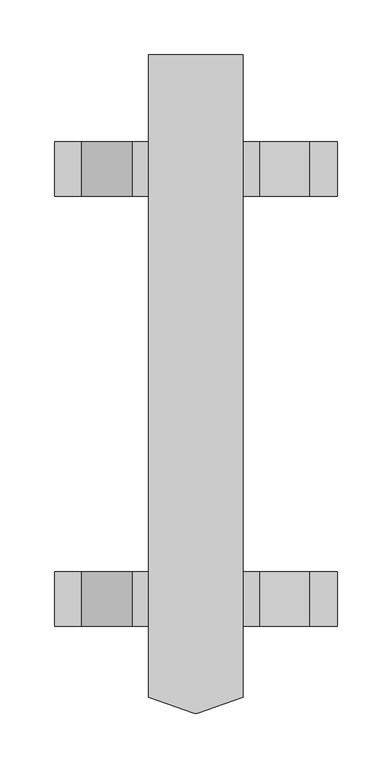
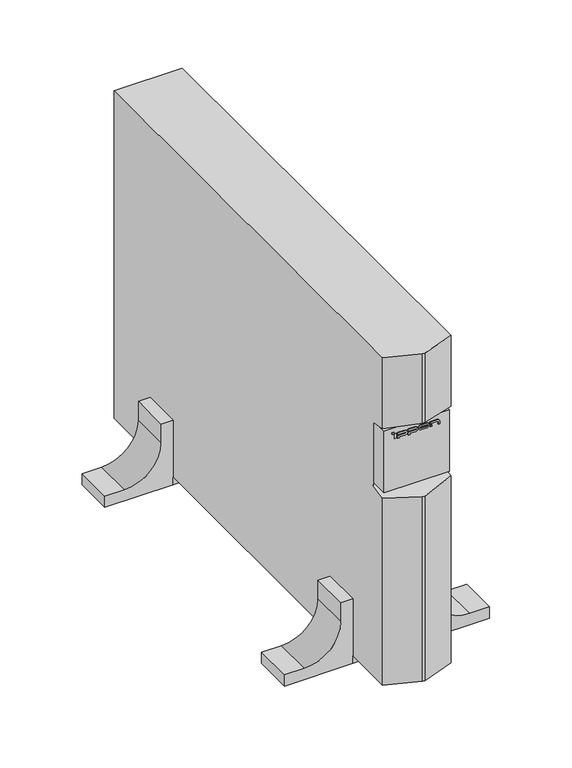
"""IFC4 building model written with IfcOpenShell, lengths in millimetres: proxy geometry, IPPON_ИБП_Innova RT_1000_1500_2000_3000ВА : INNOVA RT 3000 ВА."""

import ifcopenshell
import ifcopenshell.guid

model = None  # the IFC model being written
_history = None  # IfcOwnerHistory: only IFC2X3 demands one
_inside = {}  # id of a spatial element -> (the spatial element, [elements in it])
_under = {}  # id of a project, library or spatial element -> (it, [spatial elements below it])
_declared = {}  # id of a project -> (the project, [libraries it declares])
_typed = {}  # id of a type object -> (the type object, [elements of that type])
_made_of = {}  # id of a material, layer set ... -> (it, [elements and type objects made of it])


def new_model(schema):
    """Start an empty IFC model of exactly this schema.

    Asked for "IFC4X3", IfcOpenShell would pick the latest addendum, in which some entities
    have other attributes; the version numbers below select the first issue.
    IFC2X3 requires an IfcOwnerHistory on every rooted entity: one is made here for all.
    """
    global model, _history
    if schema == "IFC4X3":
        model = ifcopenshell.file(schema_version=(4, 3, 0, 0))
    else:
        model = ifcopenshell.file(schema=schema)
    _inside.clear()
    _under.clear()
    _declared.clear()
    _typed.clear()
    _made_of.clear()
    _history = None
    if model.schema == "IFC2X3":
        org = make("IfcOrganization", Name="unknown")
        user = make(
            "IfcPersonAndOrganization",
            ThePerson=make("IfcPerson", FamilyName="unknown"),
            TheOrganization=org,
        )
        app = make(
            "IfcApplication",
            ApplicationDeveloper=org,
            Version="unknown",
            ApplicationFullName="unknown",
            ApplicationIdentifier="unknown",
        )
        _history = make(
            "IfcOwnerHistory",
            OwningUser=user,
            OwningApplication=app,
            ChangeAction="ADDED",
            CreationDate=0,
        )
    return model


def make(cls, **values):
    """One entity of the class cls with the attributes given. An attribute that is None is left unset."""
    return model.create_entity(
        cls, **{name: value for name, value in values.items() if value is not None}
    )


def rooted(cls, **values):
    """An entity with a GlobalId (a new one), such as an element, a storey or a relation."""
    return make(cls, GlobalId=ifcopenshell.guid.new(), OwnerHistory=_history, **values)


def si_unit(unit_type, name, prefix=None):
    """IfcSIUnit, for example si_unit("LENGTHUNIT", "METRE", prefix="MILLI")."""
    return make("IfcSIUnit", UnitType=unit_type, Prefix=prefix, Name=name)


def assignment(units):
    """IfcUnitAssignment: the units of a project."""
    return None if units is None else make("IfcUnitAssignment", Units=units)


def point(xyz):
    """IfcCartesianPoint."""
    return None if xyz is None else make("IfcCartesianPoint", Coordinates=xyz)


def direction(xyz):
    """IfcDirection."""
    return None if xyz is None else make("IfcDirection", DirectionRatios=xyz)


def frame(location, z_axis=None, x_axis=None):
    """IfcAxis2Placement3D, a coordinate frame: its origin and axes. An axis left out is left unset."""
    return make(
        "IfcAxis2Placement3D",
        Location=point(location),
        Axis=direction(z_axis),
        RefDirection=direction(x_axis),
    )


def frame_2d(location, x_axis=None):
    """IfcAxis2Placement2D, a coordinate frame in the plane: its origin and x axis."""
    return make(
        "IfcAxis2Placement2D", Location=point(location), RefDirection=direction(x_axis)
    )


def origin():
    """The frame at (0, 0, 0) with its axes left unset."""
    return frame((0.0, 0.0, 0.0))


def origin_with_axes():
    """The frame at (0, 0, 0) with the z axis (0, 0, 1) and the x axis (1, 0, 0) written out."""
    return frame((0.0, 0.0, 0.0), z_axis=(0.0, 0.0, 1.0), x_axis=(1.0, 0.0, 0.0))


def place(relative_to, where):
    """IfcLocalPlacement: puts the frame where relative to a parent placement (None: the world)."""
    return make(
        "IfcLocalPlacement", PlacementRelTo=relative_to, RelativePlacement=where
    )


def context(
    kind, dimensions, precision=None, world=None, true_north=None, identifier=None
):
    """IfcGeometricRepresentationContext, for example the 3D "Model" context."""
    return make(
        "IfcGeometricRepresentationContext",
        ContextIdentifier=identifier,
        ContextType=kind,
        CoordinateSpaceDimension=dimensions,
        Precision=precision,
        WorldCoordinateSystem=world,
        TrueNorth=true_north,
    )


def project(units=None, contexts=None):
    """IfcProject with its units and contexts."""
    return rooted(
        "IfcProject",
        Name="project",
        RepresentationContexts=contexts,
        UnitsInContext=assignment(units),
    )


def spatial(cls, under=None, at=None, **own):
    """A site, building, storey or space (cls), placed at a placement, below another one or the project."""
    s = rooted(cls, ObjectPlacement=at, **own)
    if under is not None:
        _under.setdefault(under.id(), (under, []))[1].append(s)
    return s


def polyline(points):
    """IfcPolyline through the points."""
    return make("IfcPolyline", Points=[point(p) for p in points])


def circle_curve(where, radius):
    """IfcCircle in the frame where."""
    return make("IfcCircle", Position=where, Radius=radius)


def trimmed(basis, trim1, trim2, sense, master):
    """IfcTrimmedCurve: the piece of a basis curve between two trims."""
    return make(
        "IfcTrimmedCurve",
        BasisCurve=basis,
        Trim1=trim1,
        Trim2=trim2,
        SenseAgreement=sense,
        MasterRepresentation=master,
    )


def segment(curve, same_sense, transition):
    """IfcCompositeCurveSegment."""
    return make(
        "IfcCompositeCurveSegment",
        Transition=transition,
        SameSense=same_sense,
        ParentCurve=curve,
    )


def composite_curve(segments, self_intersect=None):
    """IfcCompositeCurve: segments joined end to end."""
    return make("IfcCompositeCurve", Segments=segments, SelfIntersect=self_intersect)


def outline(outer, holes=None, kind="AREA"):
    """IfcArbitraryClosedProfileDef: a profile drawn as a closed curve; with holes, ...WithVoids."""
    if holes is None:
        return make("IfcArbitraryClosedProfileDef", ProfileType=kind, OuterCurve=outer)
    return make(
        "IfcArbitraryProfileDefWithVoids",
        ProfileType=kind,
        OuterCurve=outer,
        InnerCurves=holes,
    )


def extrude(swept, where, along, depth):
    """IfcExtrudedAreaSolid: the profile swept, set in the frame where, extruded along a direction by depth."""
    return make(
        "IfcExtrudedAreaSolid",
        SweptArea=swept,
        Position=where,
        ExtrudedDirection=direction(along),
        Depth=depth,
    )


def faces_of(points, faces, orient=None, outer=None):
    """IfcFace entities. A face is a list of loops; a loop is a list of indices into points, from 0.

    orient and outer hold one flag for each loop. By default every Orientation is true, the
    first loop of a face is its IfcFaceOuterBound and the others are IfcFaceBound.
    """
    made = []
    for i, loops in enumerate(faces):
        bounds = []
        for j, loop in enumerate(loops):
            is_outer = j == 0 if outer is None else outer[i][j]
            bounds.append(
                make(
                    "IfcFaceOuterBound" if is_outer else "IfcFaceBound",
                    Bound=make("IfcPolyLoop", Polygon=[points[k] for k in loop]),
                    Orientation=True if orient is None else orient[i][j],
                )
            )
        made.append(make("IfcFace", Bounds=bounds))
    return made


def faceted_brep(points, faces, orient=None, outer=None, voids=None):
    """IfcFacetedBrep: a solid bounded by flat faces; with voids (closed shells), ...WithVoids."""
    shared = [point(p) for p in points]
    hull = make("IfcClosedShell", CfsFaces=faces_of(shared, faces, orient, outer))
    if voids is None:
        return make("IfcFacetedBrep", Outer=hull)
    return make(
        "IfcFacetedBrepWithVoids",
        Outer=hull,
        Voids=[
            make(cls, CfsFaces=faces_of(shared, fs, o, b)) for cls, fs, o, b in voids
        ],
    )


def shape(context_of_items, identifier, shape_type, items):
    """IfcShapeRepresentation: the items that make up one representation, for example the "Body"."""
    return make(
        "IfcShapeRepresentation",
        ContextOfItems=context_of_items,
        RepresentationIdentifier=identifier,
        RepresentationType=shape_type,
        Items=items,
    )


def source(mapping_origin, context_of_items, identifier, shape_type, items):
    """IfcRepresentationMap: a shape defined once, which mapped items show again and again."""
    return make(
        "IfcRepresentationMap",
        MappingOrigin=mapping_origin,
        MappedRepresentation=shape(context_of_items, identifier, shape_type, items),
    )


def transform(
    local_origin,
    x_axis=None,
    y_axis=None,
    z_axis=None,
    scale=None,
    scale2=None,
    scale3=None,
    uniform=True,
):
    """IfcCartesianTransformationOperator3D, or its non-uniform kind. x_axis, y_axis, z_axis: its Axis1, 2, 3."""
    if uniform:
        return make(
            "IfcCartesianTransformationOperator3D",
            Axis1=direction(x_axis),
            Axis2=direction(y_axis),
            LocalOrigin=point(local_origin),
            Scale=scale,
            Axis3=direction(z_axis),
        )
    return make(
        "IfcCartesianTransformationOperator3DnonUniform",
        Axis1=direction(x_axis),
        Axis2=direction(y_axis),
        LocalOrigin=point(local_origin),
        Scale=scale,
        Axis3=direction(z_axis),
        Scale2=scale2,
        Scale3=scale3,
    )


def mapped(mapping_source, mapping_target):
    """IfcMappedItem: shows the shape of a source again, moved by a transform."""
    return make(
        "IfcMappedItem", MappingSource=mapping_source, MappingTarget=mapping_target
    )


def made_of(thing, what):
    """Note that an element or type object is made of a material, layer set ...; save() writes the relation."""
    if what is not None:
        _made_of.setdefault(what.id(), (what, []))[1].append(thing)
    return thing


def element(
    cls,
    number,
    at=None,
    inside=None,
    cuts=None,
    type_object=None,
    material=None,
    context=None,
    identifier="Body",
    shape_type=None,
    held_by="IfcProductDefinitionShape",
    body=None,
    shapes=None,
    **own,
):
    """One element of the class cls, such as IfcWall. Its Tag is "e" and its number.

    at: its placement. inside: the storey or other place that contains it. cuts: it is an
    opening in that element (IfcRelVoidsElement). A single representation is given by context,
    identifier, shape_type and body (its items); several are given by shapes. held_by: the class
    of the entity that holds the representations. save() writes the other relations.
    """
    e = rooted(cls, Tag="e%d" % number, ObjectPlacement=at, **own)
    if body is not None:
        shapes = [shape(context, identifier, shape_type, body)]
    if shapes is not None:
        e.Representation = make(held_by, Representations=shapes)
    if inside is not None:
        _inside.setdefault(inside.id(), (inside, []))[1].append(e)
    if cuts is not None:
        rooted(
            "IfcRelVoidsElement", RelatingBuildingElement=cuts, RelatedOpeningElement=e
        )
    if type_object is not None:
        _typed.setdefault(type_object.id(), (type_object, []))[1].append(e)
    return made_of(e, material)


def aggregate(whole, parts):
    """IfcRelAggregates: a whole, such as a stair, and the parts it consists of."""
    return rooted("IfcRelAggregates", RelatingObject=whole, RelatedObjects=parts)


def save(model, path):
    """Write the relations noted so far, then the file.

    IfcRelAggregates (storeys below a building ...), IfcRelContainedInSpatialStructure (elements
    in a storey), IfcRelDefinesByType, IfcRelAssociatesMaterial and IfcRelDeclares: one each for
    every whole, place, type object, material and project.
    """
    for whole, parts in _under.values():
        aggregate(whole, parts)
    for where, things in _inside.values():
        rooted(
            "IfcRelContainedInSpatialStructure",
            RelatedElements=things,
            RelatingStructure=where,
        )
    for kind, things in _typed.values():
        rooted("IfcRelDefinesByType", RelatedObjects=things, RelatingType=kind)
    for what, things in _made_of.values():
        rooted("IfcRelAssociatesMaterial", RelatedObjects=things, RelatingMaterial=what)
    for by, libraries in _declared.values():
        rooted("IfcRelDeclares", RelatingContext=by, RelatedDefinitions=libraries)
    model.write(path)


def electrical_equipment_0e66a687(model_context):
    return source(origin(), model_context, "Body", "SolidModel", [
        extrude(outline(polyline([(-29.1718133, 14.0), (-31.1718133, 14.0), (-31.1718133, 15.0), (-29.1718133, 15.0), (-29.1718133, 14.0)])), frame((0.0, 0.0, 341.7195835), z_axis=(0.0, 0.0, 1.0), x_axis=(1.0, 0.0, 0.0)), (0.0, 0.0, 1.0), 2.3),
        extrude(outline(polyline([(18.6035474, 14.0), (16.6035474, 14.0), (16.6035474, 15.0), (18.6035474, 15.0), (18.6035474, 14.0)])), frame((0.0, 0.0, 335.7195835), z_axis=(0.0, 0.0, 1.0), x_axis=(1.0, 0.0, 0.0)), (0.0, 0.0, 1.0), 2.2268231),
        extrude(outline(polyline([(-26.438565, 14.0), (-28.4833324, 14.0), (-28.4833324, 15.0), (-26.438565, 15.0), (-26.438565, 14.0)])), frame((0.0, 0.0, 335.7195835), z_axis=(0.0, 0.0, 1.0), x_axis=(1.0, 0.0, 0.0)), (0.0, 0.0, 1.0), 6.0),
        extrude(outline(composite_curve([segment(polyline([(339.4571435, -24.2241109), (339.4571435, -14.9923536)]), True, "CONTINUOUS"), segment(trimmed(circle_curve(frame_2d((338.6006642, -14.9923536)), 0.8564793), [point((339.4571435, -14.9923536))], [point((337.7441849, -14.9923536))], True, "CARTESIAN"), True, "CONTINUOUS"), segment(polyline([(337.7441849, -14.9923536), (337.7441849, -24.2241109), (334.2536803, -24.2241109), (334.2536803, -22.2241109), (335.7195835, -22.2241109), (335.7195835, -15.1486036)]), True, "CONTINUOUS"), segment(trimmed(circle_curve(frame_2d((338.7195835, -15.1486036)), 3.0), [point((335.7195835, -15.1486036))], [point((341.7195835, -15.1486036))], False, "CARTESIAN"), True, "CONTINUOUS"), segment(polyline([(341.7195835, -15.1486036), (341.7195835, -24.2241109), (339.4571435, -24.2241109)]), True, "CONTINUOUS")], self_intersect=False)), frame((0.0, 14.0, 0.0), z_axis=(0.0, 1.0, 0.0), x_axis=(0.0, 0.0, 1.0)), (0.0, 0.0, 1.0), 1.0),
        extrude(outline(composite_curve([segment(polyline([(339.4571435, -11.0171091), (339.4571435, -1.7853518)]), True, "CONTINUOUS"), segment(trimmed(circle_curve(frame_2d((338.6006642, -1.7853518)), 0.8564793), [point((339.4571435, -1.7853518))], [point((337.7441849, -1.7853518))], True, "CARTESIAN"), True, "CONTINUOUS"), segment(polyline([(337.7441849, -1.7853518), (337.7441849, -11.0171091), (334.2536803, -11.0171091), (334.2536803, -9.0171091), (335.7195835, -9.0171091), (335.7195835, -1.9416018)]), True, "CONTINUOUS"), segment(trimmed(circle_curve(frame_2d((338.7195835, -1.9416018)), 3.0), [point((335.7195835, -1.9416018))], [point((341.7195835, -1.9416018))], False, "CARTESIAN"), True, "CONTINUOUS"), segment(polyline([(341.7195835, -1.9416018), (341.7195835, -11.0171091), (339.4571435, -11.0171091)]), True, "CONTINUOUS")], self_intersect=False)), frame((0.0, 14.0, 0.0), z_axis=(0.0, 1.0, 0.0), x_axis=(0.0, 0.0, 1.0)), (0.0, 0.0, 1.0), 1.0),
        extrude(outline(composite_curve([segment(trimmed(circle_curve(frame_2d((338.7195835, 12.558657)), 3.0), [point((335.7195835, 12.558657))], [point((341.7195835, 12.558657))], False, "CARTESIAN"), True, "CONTINUOUS"), segment(polyline([(341.7195835, 12.558657), (341.7195835, 4.958657)]), True, "CONTINUOUS"), segment(trimmed(circle_curve(frame_2d((338.7195835, 4.958657)), 3.0), [point((341.7195835, 4.958657))], [point((335.7195835, 4.958657))], False, "CARTESIAN"), True, "CONTINUOUS"), segment(polyline([(335.7195835, 4.958657), (335.7195835, 12.558657)]), True, "CONTINUOUS")], self_intersect=False), holes=[composite_curve([segment(polyline([(337.7441849, 12.714907), (337.7441849, 4.802407)]), True, "CONTINUOUS"), segment(trimmed(circle_curve(frame_2d((338.6006642, 4.802407)), 0.8564793), [point((337.7441849, 4.802407))], [point((339.4571435, 4.802407))], True, "CARTESIAN"), True, "CONTINUOUS"), segment(polyline([(339.4571435, 4.802407), (339.4571435, 12.714907)]), True, "CONTINUOUS"), segment(trimmed(circle_curve(frame_2d((338.6006642, 12.714907)), 0.8564793), [point((339.4571435, 12.714907))], [point((337.7441849, 12.714907))], True, "CARTESIAN"), True, "CONTINUOUS")], self_intersect=False)]), frame((0.0, 14.0, 0.0), z_axis=(0.0, 1.0, 0.0), x_axis=(0.0, 0.0, 1.0)), (0.0, 0.0, 1.0), 1.0),
        extrude(outline(composite_curve([segment(polyline([(339.4571435, 16.6035474), (339.4571435, 25.8353046)]), True, "CONTINUOUS"), segment(trimmed(circle_curve(frame_2d((338.6006642, 25.8353046)), 0.8564793), [point((339.4571435, 25.8353046))], [point((338.6006642, 26.6917839))], True, "CARTESIAN"), True, "CONTINUOUS"), segment(polyline([(338.6006642, 26.6917839), (335.7195835, 26.6917839), (335.7195835, 28.6317921), (339.25, 28.6317921)]), True, "CONTINUOUS"), segment(trimmed(circle_curve(frame_2d((338.7195835, 25.6790546)), 3.0), [point((339.25, 28.6317921))], [point((341.7195835, 25.6790546))], False, "CARTESIAN"), True, "CONTINUOUS"), segment(polyline([(341.7195835, 25.6790546), (341.7195835, 16.6035474), (339.4571435, 16.6035474)]), True, "CONTINUOUS")], self_intersect=False)), frame((0.0, 14.0, 0.0), z_axis=(0.0, 1.0, 0.0), x_axis=(0.0, 0.0, 1.0)), (0.0, 0.0, 1.0), 1.0),
        extrude(outline(polyline([(-43.25, 524.0), (43.25, 524.0), (43.25, 474.0), (-43.25, 474.0), (-43.25, 524.0)])), origin_with_axes(), (0.0, 0.0, 1.0), 10.0),
        extrude(outline(polyline([(43.25, 80.0), (-43.25, 80.0), (-43.25, 130.0), (43.25, 130.0), (43.25, 80.0)])), origin_with_axes(), (0.0, 0.0, 1.0), 10.0),
        extrude(outline(composite_curve([segment(polyline([(0.0, -43.25), (86.5, -43.25), (86.5, -58.25), (61.5, -58.25)]), True, "CONTINUOUS"), segment(trimmed(circle_curve(frame_2d((61.5, -104.75)), 46.5), [point((61.5, -58.25))], [point((15.0, -104.75))], True, "CARTESIAN"), True, "CONTINUOUS"), segment(polyline([(15.0, -104.75), (15.0, -129.75), (0.0, -129.75), (0.0, -43.25)]), True, "CONTINUOUS")], self_intersect=False)), frame((0.0, 474.0, 0.0), z_axis=(0.0, 1.0, 0.0), x_axis=(0.0, 0.0, 1.0)), (0.0, 0.0, 1.0), 50.0),
        extrude(outline(composite_curve([segment(polyline([(0.0, -43.25), (86.5, -43.25), (86.5, -58.25), (61.5, -58.25)]), True, "CONTINUOUS"), segment(trimmed(circle_curve(frame_2d((61.5, -104.75)), 46.5), [point((61.5, -58.25))], [point((15.0, -104.75))], True, "CARTESIAN"), True, "CONTINUOUS"), segment(polyline([(15.0, -104.75), (15.0, -129.75), (0.0, -129.75), (0.0, -43.25)]), True, "CONTINUOUS")], self_intersect=False)), frame((0.0, 80.0, 0.0), z_axis=(0.0, 1.0, 0.0), x_axis=(0.0, 0.0, 1.0)), (0.0, 0.0, 1.0), 50.0),
        extrude(outline(composite_curve([segment(polyline([(0.0, 129.75), (15.0, 129.75), (15.0, 104.75)]), True, "CONTINUOUS"), segment(trimmed(circle_curve(frame_2d((61.5, 104.75)), 46.5), [point((15.0, 104.75))], [point((61.5, 58.25))], True, "CARTESIAN"), True, "CONTINUOUS"), segment(polyline([(61.5, 58.25), (86.5, 58.25), (86.5, 43.25), (0.0, 43.25), (0.0, 129.75)]), True, "CONTINUOUS")], self_intersect=False)), frame((0.0, 474.0, 0.0), z_axis=(0.0, 1.0, 0.0), x_axis=(0.0, 0.0, 1.0)), (0.0, 0.0, 1.0), 50.0),
        extrude(outline(composite_curve([segment(polyline([(0.0, 43.25), (0.0, 129.75), (15.0, 129.75), (15.0, 104.75)]), True, "CONTINUOUS"), segment(trimmed(circle_curve(frame_2d((61.5, 104.75)), 46.5), [point((15.0, 104.75))], [point((61.5, 58.25))], True, "CARTESIAN"), True, "CONTINUOUS"), segment(polyline([(61.5, 58.25), (86.5, 58.25), (86.5, 43.25), (0.0, 43.25)]), True, "CONTINUOUS")], self_intersect=False)), frame((0.0, 80.0, 0.0), z_axis=(0.0, 1.0, 0.0), x_axis=(0.0, 0.0, 1.0)), (0.0, 0.0, 1.0), 50.0),
        extrude(outline(polyline([(41.25, 15.0), (-41.25, 15.0), (-41.25, 43.0), (41.25, 43.0), (41.25, 15.0)])), frame((0.0, 0.0, 266.75), z_axis=(0.0, 0.0, 1.0), x_axis=(1.0, 0.0, 0.0)), (0.0, 0.0, 1.0), 82.5),
        faceted_brep([(1.5, 0.0, 448.0), (-1.5, 0.0, 448.0), (-1.5, 0.0, 355.25), (1.5, 0.0, 355.25), (-1.5, 0.0, 10.0), (1.5, 0.0, 10.0), (1.5, 0.0, 256.75), (-1.5, 0.0, 256.75), (43.25, 15.0, 10.0), (43.25, 15.0, 260.2383721), (43.25, 15.0, 448.0), (43.25, 15.0, 353.1569767), (43.25, 604.0, 448.0), (-43.25, 604.0, 448.0), (-43.25, 15.0, 448.0), (-43.25, 15.0, 353.1569767), (-43.25, 15.0, 10.0), (-43.25, 15.0, 260.2383721), (-43.25, 604.0, 10.0), (43.25, 604.0, 10.0), (41.25, 43.0, 349.25), (-41.25, 43.0, 349.25), (-41.25, 43.0, 266.75), (41.25, 43.0, 266.75), (43.25, 34.4, 264.75), (43.25, 34.4, 350.45), (-43.25, 34.4, 264.75), (-43.25, 34.4, 350.45)], [[[0, 1, 2, 3]], [[4, 5, 6, 7]], [[5, 8, 9, 6]], [[10, 0, 3, 11]], [[1, 0, 10, 12, 13, 14]], [[1, 14, 15, 2]], [[16, 4, 7, 17]], [[5, 4, 16, 18, 19, 8]], [[20, 21, 22, 23]], [[20, 23, 24, 25]], [[23, 22, 26, 17, 7, 6, 9, 24]], [[22, 21, 27, 26]], [[21, 20, 25, 11, 3, 2, 15, 27]], [[12, 19, 18, 13]], [[13, 18, 16, 17, 26, 27, 15, 14]], [[19, 12, 10, 11, 25, 24, 9, 8]]]),
    ])


if __name__ == "__main__":
    model = new_model("IFC4")
    model_context = context("Model", 3, world=origin())
    ifc_project = project(units=[si_unit("LENGTHUNIT", "METRE", prefix="MILLI")], contexts=[model_context])
    site = spatial("IfcSite", under=ifc_project)
    building = spatial("IfcBuilding", under=site)
    placement = place(None, origin())
    electrical_equipment_shape = electrical_equipment_0e66a687(model_context)
    element("IfcBuildingElementProxy", 1, Name="IPPON_ИБП_Innova RT_1000_1500_2000_3000ВА : INNOVA RT 3000 ВА", ObjectType="IPPON_ИБП_Innova RT_1000_1500_2000_3000ВА : INNOVA RT 3000 ВА", at=placement, inside=building, context=model_context, shape_type="MappedRepresentation", body=[
        mapped(electrical_equipment_shape, transform((0.0, 0.0, 0.0), x_axis=(1.0, 0.0, 0.0), y_axis=(0.0, 1.0, 0.0), z_axis=(0.0, 0.0, 1.0))),
    ])
    save(model, "model.ifc")
